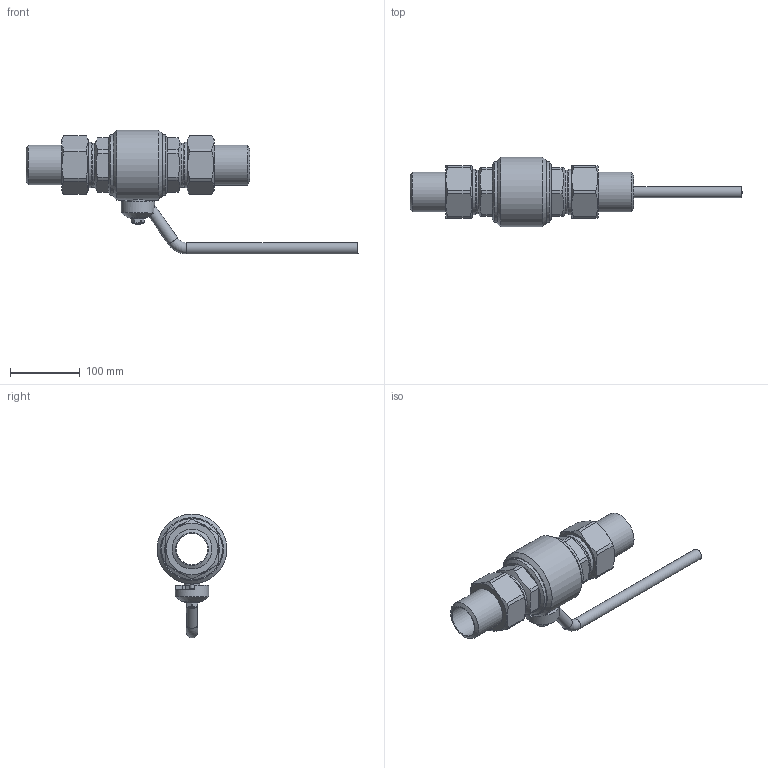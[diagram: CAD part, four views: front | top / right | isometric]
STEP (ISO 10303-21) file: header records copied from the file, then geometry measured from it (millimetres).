
FILE_DESCRIPTION(('STEP AP203'), '1');
FILE_NAME('ZARD 050.016.30.P.stp', '2013-12-06T07:30:25', ('1'), ('1'), 'ASCON STEP Converter 1.3', 'Kompas 3D', '');
FILE_SCHEMA(('CONFIG_CONTROL_DESIGN','SUPPORT_RESOURCE_SCHEMA'));
Length unit declared in the file: millimetre
Products named in the file (1): 150
Bounding box: 475.01 x 100 x 177 mm (x, y, z)
Volume: 949380.4 mm3; surface area: 190699.7 mm2
Topology: 1 solids, 8 shells, 250 faces, 565 edges, 351 vertices
Faces by surface type: plane 118, cylinder 85, cone 37, torus 8, sphere 2
Full cylindrical faces by diameter (mm): 6 x2, 10 x2, 16 x3, 21.8 x1, 22 x2, 45 x4, 48 x1, 55 x2, 57 x2, 62.5 x2, 62.8 x2, 63.376 x2, 65 x2, 73.4 x1, 87 x2, 100 x1
Entity records: 10107 total; most frequent: CARTESIAN_POINT 4377, DIRECTION 1228, ORIENTED_EDGE 1130, EDGE_CURVE 565, AXIS2_PLACEMENT_3D 492, VERTEX_POINT 351, EDGE_LOOP 278, ADVANCED_FACE 250
